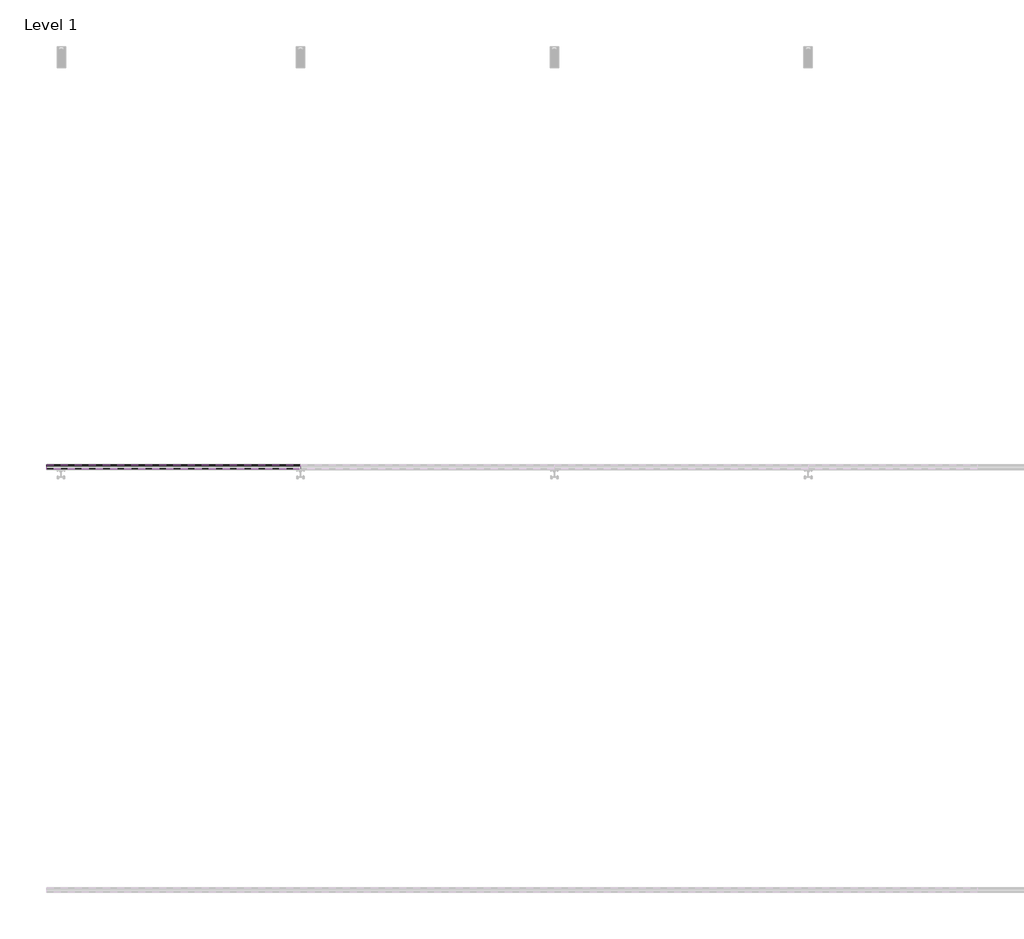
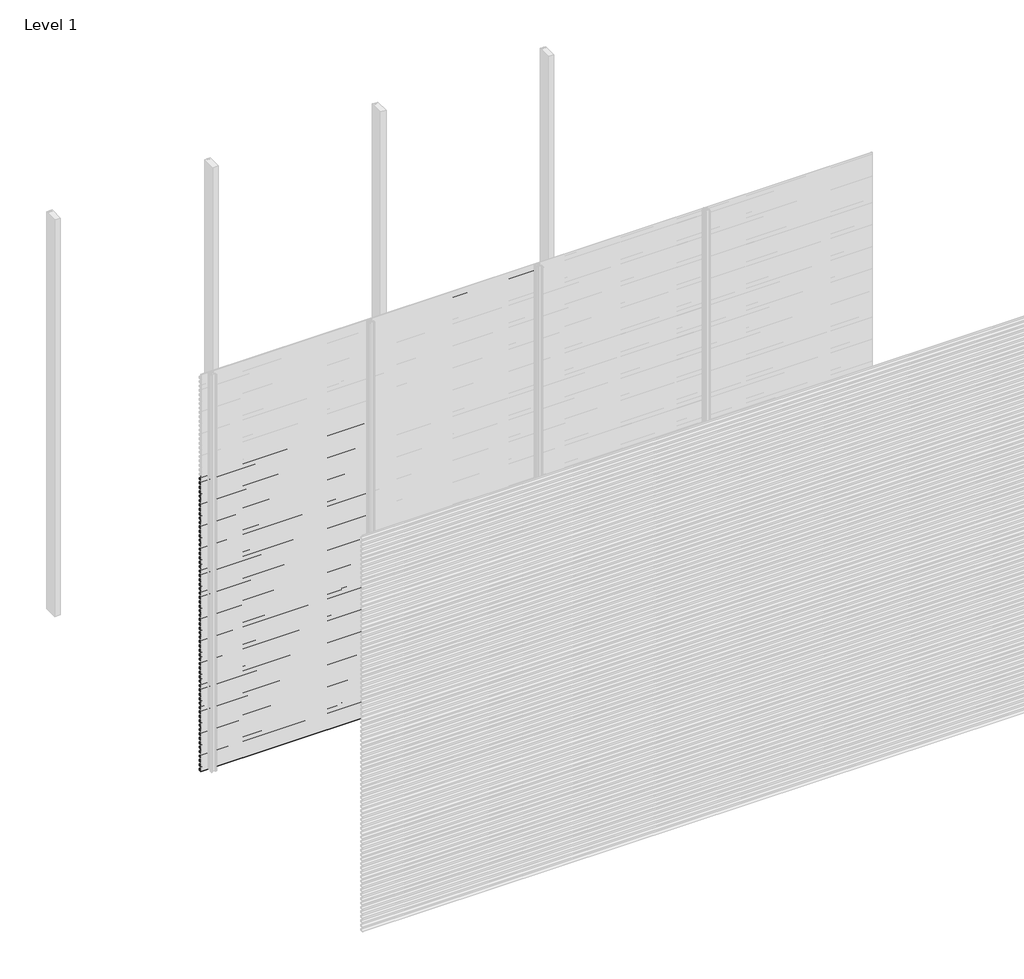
# One storey, part 20 of 77: 72 proxies.
"""IFC4 building model written with IfcOpenShell, lengths in millimetres."""

from ifc_helpers import new_model, si_unit, frame, origin, place, context, project, spatial, polyline, outline, extrude, element, save

model = new_model("IFC4")

# Units and contexts
model_context = context("Model", 3, world=origin())
ifc_project = project(units=[si_unit("LENGTHUNIT", "METRE", prefix="MILLI")], contexts=[model_context])

# Site, building, storey
site = spatial("IfcSite", under=ifc_project)
building = spatial("IfcBuilding", under=site)
storey = spatial("IfcBuildingStorey", under=building, Name="Level 1", Elevation=0.0)

# Proxies
placement = place(None, origin())
element("IfcBuildingElementProxy", 1, Name="Wall Sweeps", at=placement, inside=storey, context=model_context, shape_type="SweptSolid", body=[
    extrude(outline(polyline([(-41978.6, 2206.6359887), (-41998.0, 2217.8366691), (-41998.0, 2231.1), (-41997.0, 2231.1), (-41997.0, 2218.4191057), (-41977.6, 2207.2185105), (-41977.6, 2193.6185105), (-41978.6, 2195.1953129), (-41978.6, 2201.0032062), (-41995.9773817, 2192.9), (-41996.4, 2193.8063078), (-41978.6, 2202.1065841), (-41978.6, 2206.6359887)])), frame((0.0, 0.0, 0.0), z_axis=(1.0, 0.0, 0.0), x_axis=(0.0, 1.0, 0.0)), (0.0, 0.0, 1.0), 1200.0),
])
element("IfcBuildingElementProxy", 2, Name="Wall Sweeps", at=placement, inside=storey, context=model_context, shape_type="SweptSolid", body=[
    extrude(outline(polyline([(-41978.6, 2173.3359887), (-41998.0, 2184.5366691), (-41998.0, 2197.8), (-41997.0, 2197.8), (-41997.0, 2185.1191057), (-41977.6, 2173.9185105), (-41977.6, 2160.3185105), (-41978.6, 2161.8953129), (-41978.6, 2167.7032062), (-41995.9773817, 2159.6), (-41996.4, 2160.5063078), (-41978.6, 2168.8065841), (-41978.6, 2173.3359887)])), frame((0.0, 0.0, 0.0), z_axis=(1.0, 0.0, 0.0), x_axis=(0.0, 1.0, 0.0)), (0.0, 0.0, 1.0), 1200.0),
])
element("IfcBuildingElementProxy", 3, Name="Wall Sweeps", at=placement, inside=storey, context=model_context, shape_type="SweptSolid", body=[
    extrude(outline(polyline([(-41978.6, 2140.0359887), (-41998.0, 2151.2366691), (-41998.0, 2164.5), (-41997.0, 2164.5), (-41997.0, 2151.8191057), (-41977.6, 2140.6185105), (-41977.6, 2127.0185105), (-41978.6, 2128.5953129), (-41978.6, 2134.4032062), (-41995.9773817, 2126.3), (-41996.4, 2127.2063078), (-41978.6, 2135.5065841), (-41978.6, 2140.0359887)])), frame((0.0, 0.0, 0.0), z_axis=(1.0, 0.0, 0.0), x_axis=(0.0, 1.0, 0.0)), (0.0, 0.0, 1.0), 1200.0),
])
element("IfcBuildingElementProxy", 4, Name="Wall Sweeps", at=placement, inside=storey, context=model_context, shape_type="SweptSolid", body=[
    extrude(outline(polyline([(-41978.6, 2106.7359887), (-41998.0, 2117.9366691), (-41998.0, 2131.2), (-41997.0, 2131.2), (-41997.0, 2118.5191057), (-41977.6, 2107.3185105), (-41977.6, 2093.7185105), (-41978.6, 2095.2953129), (-41978.6, 2101.1032062), (-41995.9773817, 2093.0), (-41996.4, 2093.9063078), (-41978.6, 2102.2065841), (-41978.6, 2106.7359887)])), frame((0.0, 0.0, 0.0), z_axis=(1.0, 0.0, 0.0), x_axis=(0.0, 1.0, 0.0)), (0.0, 0.0, 1.0), 1200.0),
])
element("IfcBuildingElementProxy", 5, Name="Wall Sweeps", at=placement, inside=storey, context=model_context, shape_type="SweptSolid", body=[
    extrude(outline(polyline([(-41978.6, 2073.4359887), (-41998.0, 2084.6366691), (-41998.0, 2097.9), (-41997.0, 2097.9), (-41997.0, 2085.2191057), (-41977.6, 2074.0185105), (-41977.6, 2060.4185105), (-41978.6, 2061.9953129), (-41978.6, 2067.8032062), (-41995.9773817, 2059.7), (-41996.4, 2060.6063078), (-41978.6, 2068.9065841), (-41978.6, 2073.4359887)])), frame((0.0, 0.0, 0.0), z_axis=(1.0, 0.0, 0.0), x_axis=(0.0, 1.0, 0.0)), (0.0, 0.0, 1.0), 1200.0),
])
element("IfcBuildingElementProxy", 6, Name="Wall Sweeps", at=placement, inside=storey, context=model_context, shape_type="SweptSolid", body=[
    extrude(outline(polyline([(-41978.6, 2040.1359887), (-41998.0, 2051.3366691), (-41998.0, 2064.6), (-41997.0, 2064.6), (-41997.0, 2051.9191057), (-41977.6, 2040.7185105), (-41977.6, 2027.1185105), (-41978.6, 2028.6953129), (-41978.6, 2034.5032062), (-41995.9773817, 2026.4), (-41996.4, 2027.3063078), (-41978.6, 2035.6065841), (-41978.6, 2040.1359887)])), frame((0.0, 0.0, 0.0), z_axis=(1.0, 0.0, 0.0), x_axis=(0.0, 1.0, 0.0)), (0.0, 0.0, 1.0), 1200.0),
])
element("IfcBuildingElementProxy", 7, Name="Wall Sweeps", at=placement, inside=storey, context=model_context, shape_type="SweptSolid", body=[
    extrude(outline(polyline([(-41978.6, 2006.8359887), (-41998.0, 2018.0366691), (-41998.0, 2031.3), (-41997.0, 2031.3), (-41997.0, 2018.6191057), (-41977.6, 2007.4185105), (-41977.6, 1993.8185105), (-41978.6, 1995.3953129), (-41978.6, 2001.2032062), (-41995.9773817, 1993.1), (-41996.4, 1994.0063078), (-41978.6, 2002.3065841), (-41978.6, 2006.8359887)])), frame((0.0, 0.0, 0.0), z_axis=(1.0, 0.0, 0.0), x_axis=(0.0, 1.0, 0.0)), (0.0, 0.0, 1.0), 1200.0),
])
element("IfcBuildingElementProxy", 8, Name="Wall Sweeps", at=placement, inside=storey, context=model_context, shape_type="SweptSolid", body=[
    extrude(outline(polyline([(-41978.6, 1973.5359887), (-41998.0, 1984.7366691), (-41998.0, 1998.0), (-41997.0, 1998.0), (-41997.0, 1985.3191057), (-41977.6, 1974.1185105), (-41977.6, 1960.5185105), (-41978.6, 1962.0953129), (-41978.6, 1967.9032062), (-41995.9773817, 1959.8), (-41996.4, 1960.7063078), (-41978.6, 1969.0065841), (-41978.6, 1973.5359887)])), frame((0.0, 0.0, 0.0), z_axis=(1.0, 0.0, 0.0), x_axis=(0.0, 1.0, 0.0)), (0.0, 0.0, 1.0), 1200.0),
])
element("IfcBuildingElementProxy", 9, Name="Wall Sweeps", at=placement, inside=storey, context=model_context, shape_type="SweptSolid", body=[
    extrude(outline(polyline([(-41978.6, 1940.2359887), (-41998.0, 1951.4366691), (-41998.0, 1964.7), (-41997.0, 1964.7), (-41997.0, 1952.0191057), (-41977.6, 1940.8185105), (-41977.6, 1927.2185105), (-41978.6, 1928.7953129), (-41978.6, 1934.6032062), (-41995.9773817, 1926.5), (-41996.4, 1927.4063078), (-41978.6, 1935.7065841), (-41978.6, 1940.2359887)])), frame((0.0, 0.0, 0.0), z_axis=(1.0, 0.0, 0.0), x_axis=(0.0, 1.0, 0.0)), (0.0, 0.0, 1.0), 1200.0),
])
element("IfcBuildingElementProxy", 10, Name="Wall Sweeps", at=placement, inside=storey, context=model_context, shape_type="SweptSolid", body=[
    extrude(outline(polyline([(-41978.6, 1906.9359887), (-41998.0, 1918.1366691), (-41998.0, 1931.4), (-41997.0, 1931.4), (-41997.0, 1918.7191057), (-41977.6, 1907.5185105), (-41977.6, 1893.9185105), (-41978.6, 1895.4953129), (-41978.6, 1901.3032062), (-41995.9773817, 1893.2), (-41996.4, 1894.1063078), (-41978.6, 1902.4065841), (-41978.6, 1906.9359887)])), frame((0.0, 0.0, 0.0), z_axis=(1.0, 0.0, 0.0), x_axis=(0.0, 1.0, 0.0)), (0.0, 0.0, 1.0), 1200.0),
])
element("IfcBuildingElementProxy", 11, Name="Wall Sweeps", at=placement, inside=storey, context=model_context, shape_type="SweptSolid", body=[
    extrude(outline(polyline([(-41978.6, 1873.6359887), (-41998.0, 1884.8366691), (-41998.0, 1898.1), (-41997.0, 1898.1), (-41997.0, 1885.4191057), (-41977.6, 1874.2185105), (-41977.6, 1860.6185105), (-41978.6, 1862.1953129), (-41978.6, 1868.0032062), (-41995.9773817, 1859.9), (-41996.4, 1860.8063078), (-41978.6, 1869.1065841), (-41978.6, 1873.6359887)])), frame((0.0, 0.0, 0.0), z_axis=(1.0, 0.0, 0.0), x_axis=(0.0, 1.0, 0.0)), (0.0, 0.0, 1.0), 1200.0),
])
element("IfcBuildingElementProxy", 12, Name="Wall Sweeps", at=placement, inside=storey, context=model_context, shape_type="SweptSolid", body=[
    extrude(outline(polyline([(-41978.6, 1840.3359887), (-41998.0, 1851.5366691), (-41998.0, 1864.8), (-41997.0, 1864.8), (-41997.0, 1852.1191057), (-41977.6, 1840.9185105), (-41977.6, 1827.3185105), (-41978.6, 1828.8953129), (-41978.6, 1834.7032062), (-41995.9773817, 1826.6), (-41996.4, 1827.5063078), (-41978.6, 1835.8065841), (-41978.6, 1840.3359887)])), frame((0.0, 0.0, 0.0), z_axis=(1.0, 0.0, 0.0), x_axis=(0.0, 1.0, 0.0)), (0.0, 0.0, 1.0), 1200.0),
])
element("IfcBuildingElementProxy", 13, Name="Wall Sweeps", at=placement, inside=storey, context=model_context, shape_type="SweptSolid", body=[
    extrude(outline(polyline([(-41978.6, 1807.0359887), (-41998.0, 1818.2366691), (-41998.0, 1831.5), (-41997.0, 1831.5), (-41997.0, 1818.8191057), (-41977.6, 1807.6185105), (-41977.6, 1794.0185105), (-41978.6, 1795.5953129), (-41978.6, 1801.4032062), (-41995.9773817, 1793.3), (-41996.4, 1794.2063078), (-41978.6, 1802.5065841), (-41978.6, 1807.0359887)])), frame((0.0, 0.0, 0.0), z_axis=(1.0, 0.0, 0.0), x_axis=(0.0, 1.0, 0.0)), (0.0, 0.0, 1.0), 1200.0),
])
element("IfcBuildingElementProxy", 14, Name="Wall Sweeps", at=placement, inside=storey, context=model_context, shape_type="SweptSolid", body=[
    extrude(outline(polyline([(-41978.6, 1773.7359887), (-41998.0, 1784.9366691), (-41998.0, 1798.2), (-41997.0, 1798.2), (-41997.0, 1785.5191057), (-41977.6, 1774.3185105), (-41977.6, 1760.7185105), (-41978.6, 1762.2953129), (-41978.6, 1768.1032062), (-41995.9773817, 1760.0), (-41996.4, 1760.9063078), (-41978.6, 1769.2065841), (-41978.6, 1773.7359887)])), frame((0.0, 0.0, 0.0), z_axis=(1.0, 0.0, 0.0), x_axis=(0.0, 1.0, 0.0)), (0.0, 0.0, 1.0), 1200.0),
])
element("IfcBuildingElementProxy", 15, Name="Wall Sweeps", at=placement, inside=storey, context=model_context, shape_type="SweptSolid", body=[
    extrude(outline(polyline([(-41978.6, 1740.4359887), (-41998.0, 1751.6366691), (-41998.0, 1764.9), (-41997.0, 1764.9), (-41997.0, 1752.2191057), (-41977.6, 1741.0185105), (-41977.6, 1727.4185105), (-41978.6, 1728.9953129), (-41978.6, 1734.8032062), (-41995.9773817, 1726.7), (-41996.4, 1727.6063078), (-41978.6, 1735.9065841), (-41978.6, 1740.4359887)])), frame((0.0, 0.0, 0.0), z_axis=(1.0, 0.0, 0.0), x_axis=(0.0, 1.0, 0.0)), (0.0, 0.0, 1.0), 1200.0),
])
element("IfcBuildingElementProxy", 16, Name="Wall Sweeps", at=placement, inside=storey, context=model_context, shape_type="SweptSolid", body=[
    extrude(outline(polyline([(-41978.6, 1707.1359887), (-41998.0, 1718.3366691), (-41998.0, 1731.6), (-41997.0, 1731.6), (-41997.0, 1718.9191057), (-41977.6, 1707.7185105), (-41977.6, 1694.1185105), (-41978.6, 1695.6953129), (-41978.6, 1701.5032062), (-41995.9773817, 1693.4), (-41996.4, 1694.3063078), (-41978.6, 1702.6065841), (-41978.6, 1707.1359887)])), frame((0.0, 0.0, 0.0), z_axis=(1.0, 0.0, 0.0), x_axis=(0.0, 1.0, 0.0)), (0.0, 0.0, 1.0), 1200.0),
])
element("IfcBuildingElementProxy", 17, Name="Wall Sweeps", at=placement, inside=storey, context=model_context, shape_type="SweptSolid", body=[
    extrude(outline(polyline([(-41978.6, 1673.8359887), (-41998.0, 1685.0366691), (-41998.0, 1698.3), (-41997.0, 1698.3), (-41997.0, 1685.6191057), (-41977.6, 1674.4185105), (-41977.6, 1660.8185105), (-41978.6, 1662.3953129), (-41978.6, 1668.2032062), (-41995.9773817, 1660.1), (-41996.4, 1661.0063078), (-41978.6, 1669.3065841), (-41978.6, 1673.8359887)])), frame((0.0, 0.0, 0.0), z_axis=(1.0, 0.0, 0.0), x_axis=(0.0, 1.0, 0.0)), (0.0, 0.0, 1.0), 1200.0),
])
element("IfcBuildingElementProxy", 18, Name="Wall Sweeps", at=placement, inside=storey, context=model_context, shape_type="SweptSolid", body=[
    extrude(outline(polyline([(-41978.6, 1640.5359887), (-41998.0, 1651.7366691), (-41998.0, 1665.0), (-41997.0, 1665.0), (-41997.0, 1652.3191057), (-41977.6, 1641.1185105), (-41977.6, 1627.5185105), (-41978.6, 1629.0953129), (-41978.6, 1634.9032062), (-41995.9773817, 1626.8), (-41996.4, 1627.7063078), (-41978.6, 1636.0065841), (-41978.6, 1640.5359887)])), frame((0.0, 0.0, 0.0), z_axis=(1.0, 0.0, 0.0), x_axis=(0.0, 1.0, 0.0)), (0.0, 0.0, 1.0), 1200.0),
])
element("IfcBuildingElementProxy", 19, Name="Wall Sweeps", at=placement, inside=storey, context=model_context, shape_type="SweptSolid", body=[
    extrude(outline(polyline([(-41978.6, 1607.2359887), (-41998.0, 1618.4366691), (-41998.0, 1631.7), (-41997.0, 1631.7), (-41997.0, 1619.0191057), (-41977.6, 1607.8185105), (-41977.6, 1594.2185105), (-41978.6, 1595.7953129), (-41978.6, 1601.6032062), (-41995.9773817, 1593.5), (-41996.4, 1594.4063078), (-41978.6, 1602.7065841), (-41978.6, 1607.2359887)])), frame((0.0, 0.0, 0.0), z_axis=(1.0, 0.0, 0.0), x_axis=(0.0, 1.0, 0.0)), (0.0, 0.0, 1.0), 1200.0),
])
element("IfcBuildingElementProxy", 20, Name="Wall Sweeps", at=placement, inside=storey, context=model_context, shape_type="SweptSolid", body=[
    extrude(outline(polyline([(-41978.6, 1573.9359887), (-41998.0, 1585.1366691), (-41998.0, 1598.4), (-41997.0, 1598.4), (-41997.0, 1585.7191057), (-41977.6, 1574.5185105), (-41977.6, 1560.9185105), (-41978.6, 1562.4953129), (-41978.6, 1568.3032062), (-41995.9773817, 1560.2), (-41996.4, 1561.1063078), (-41978.6, 1569.4065841), (-41978.6, 1573.9359887)])), frame((0.0, 0.0, 0.0), z_axis=(1.0, 0.0, 0.0), x_axis=(0.0, 1.0, 0.0)), (0.0, 0.0, 1.0), 1200.0),
])
element("IfcBuildingElementProxy", 21, Name="Wall Sweeps", at=placement, inside=storey, context=model_context, shape_type="SweptSolid", body=[
    extrude(outline(polyline([(-41978.6, 1540.6359887), (-41998.0, 1551.8366691), (-41998.0, 1565.1), (-41997.0, 1565.1), (-41997.0, 1552.4191057), (-41977.6, 1541.2185105), (-41977.6, 1527.6185105), (-41978.6, 1529.1953129), (-41978.6, 1535.0032062), (-41995.9773817, 1526.9), (-41996.4, 1527.8063078), (-41978.6, 1536.1065841), (-41978.6, 1540.6359887)])), frame((0.0, 0.0, 0.0), z_axis=(1.0, 0.0, 0.0), x_axis=(0.0, 1.0, 0.0)), (0.0, 0.0, 1.0), 1200.0),
])
element("IfcBuildingElementProxy", 22, Name="Wall Sweeps", at=placement, inside=storey, context=model_context, shape_type="SweptSolid", body=[
    extrude(outline(polyline([(-41978.6, 1507.3359887), (-41998.0, 1518.5366691), (-41998.0, 1531.8), (-41997.0, 1531.8), (-41997.0, 1519.1191057), (-41977.6, 1507.9185105), (-41977.6, 1494.3185105), (-41978.6, 1495.8953129), (-41978.6, 1501.7032062), (-41995.9773817, 1493.6), (-41996.4, 1494.5063078), (-41978.6, 1502.8065841), (-41978.6, 1507.3359887)])), frame((0.0, 0.0, 0.0), z_axis=(1.0, 0.0, 0.0), x_axis=(0.0, 1.0, 0.0)), (0.0, 0.0, 1.0), 1200.0),
])
element("IfcBuildingElementProxy", 23, Name="Wall Sweeps", at=placement, inside=storey, context=model_context, shape_type="SweptSolid", body=[
    extrude(outline(polyline([(-41978.6, 1474.0359887), (-41998.0, 1485.2366691), (-41998.0, 1498.5), (-41997.0, 1498.5), (-41997.0, 1485.8191057), (-41977.6, 1474.6185105), (-41977.6, 1461.0185105), (-41978.6, 1462.5953129), (-41978.6, 1468.4032062), (-41995.9773817, 1460.3), (-41996.4, 1461.2063078), (-41978.6, 1469.5065841), (-41978.6, 1474.0359887)])), frame((0.0, 0.0, 0.0), z_axis=(1.0, 0.0, 0.0), x_axis=(0.0, 1.0, 0.0)), (0.0, 0.0, 1.0), 1200.0),
])
element("IfcBuildingElementProxy", 24, Name="Wall Sweeps", at=placement, inside=storey, context=model_context, shape_type="SweptSolid", body=[
    extrude(outline(polyline([(-41978.6, 1440.7359887), (-41998.0, 1451.9366691), (-41998.0, 1465.2), (-41997.0, 1465.2), (-41997.0, 1452.5191057), (-41977.6, 1441.3185105), (-41977.6, 1427.7185105), (-41978.6, 1429.2953129), (-41978.6, 1435.1032062), (-41995.9773817, 1427.0), (-41996.4, 1427.9063078), (-41978.6, 1436.2065841), (-41978.6, 1440.7359887)])), frame((0.0, 0.0, 0.0), z_axis=(1.0, 0.0, 0.0), x_axis=(0.0, 1.0, 0.0)), (0.0, 0.0, 1.0), 1200.0),
])
element("IfcBuildingElementProxy", 25, Name="Wall Sweeps", at=placement, inside=storey, context=model_context, shape_type="SweptSolid", body=[
    extrude(outline(polyline([(-41978.6, 1407.4359887), (-41998.0, 1418.6366691), (-41998.0, 1431.9), (-41997.0, 1431.9), (-41997.0, 1419.2191057), (-41977.6, 1408.0185105), (-41977.6, 1394.4185105), (-41978.6, 1395.9953129), (-41978.6, 1401.8032062), (-41995.9773817, 1393.7), (-41996.4, 1394.6063078), (-41978.6, 1402.9065841), (-41978.6, 1407.4359887)])), frame((0.0, 0.0, 0.0), z_axis=(1.0, 0.0, 0.0), x_axis=(0.0, 1.0, 0.0)), (0.0, 0.0, 1.0), 1200.0),
])
element("IfcBuildingElementProxy", 26, Name="Wall Sweeps", at=placement, inside=storey, context=model_context, shape_type="SweptSolid", body=[
    extrude(outline(polyline([(-41978.6, 1374.1359887), (-41998.0, 1385.3366691), (-41998.0, 1398.6), (-41997.0, 1398.6), (-41997.0, 1385.9191057), (-41977.6, 1374.7185105), (-41977.6, 1361.1185105), (-41978.6, 1362.6953129), (-41978.6, 1368.5032062), (-41995.9773817, 1360.4), (-41996.4, 1361.3063078), (-41978.6, 1369.6065841), (-41978.6, 1374.1359887)])), frame((0.0, 0.0, 0.0), z_axis=(1.0, 0.0, 0.0), x_axis=(0.0, 1.0, 0.0)), (0.0, 0.0, 1.0), 1200.0),
])
element("IfcBuildingElementProxy", 27, Name="Wall Sweeps", at=placement, inside=storey, context=model_context, shape_type="SweptSolid", body=[
    extrude(outline(polyline([(-41978.6, 1340.8359887), (-41998.0, 1352.0366691), (-41998.0, 1365.3), (-41997.0, 1365.3), (-41997.0, 1352.6191057), (-41977.6, 1341.4185105), (-41977.6, 1327.8185105), (-41978.6, 1329.3953129), (-41978.6, 1335.2032062), (-41995.9773817, 1327.1), (-41996.4, 1328.0063078), (-41978.6, 1336.3065841), (-41978.6, 1340.8359887)])), frame((0.0, 0.0, 0.0), z_axis=(1.0, 0.0, 0.0), x_axis=(0.0, 1.0, 0.0)), (0.0, 0.0, 1.0), 1200.0),
])
element("IfcBuildingElementProxy", 28, Name="Wall Sweeps", at=placement, inside=storey, context=model_context, shape_type="SweptSolid", body=[
    extrude(outline(polyline([(-41978.6, 1307.5359887), (-41998.0, 1318.7366691), (-41998.0, 1332.0), (-41997.0, 1332.0), (-41997.0, 1319.3191057), (-41977.6, 1308.1185105), (-41977.6, 1294.5185105), (-41978.6, 1296.0953129), (-41978.6, 1301.9032062), (-41995.9773817, 1293.8), (-41996.4, 1294.7063078), (-41978.6, 1303.0065841), (-41978.6, 1307.5359887)])), frame((0.0, 0.0, 0.0), z_axis=(1.0, 0.0, 0.0), x_axis=(0.0, 1.0, 0.0)), (0.0, 0.0, 1.0), 1200.0),
])
element("IfcBuildingElementProxy", 29, Name="Wall Sweeps", at=placement, inside=storey, context=model_context, shape_type="SweptSolid", body=[
    extrude(outline(polyline([(-41978.6, 1274.2359887), (-41998.0, 1285.4366691), (-41998.0, 1298.7), (-41997.0, 1298.7), (-41997.0, 1286.0191057), (-41977.6, 1274.8185105), (-41977.6, 1261.2185105), (-41978.6, 1262.7953129), (-41978.6, 1268.6032062), (-41995.9773817, 1260.5), (-41996.4, 1261.4063078), (-41978.6, 1269.7065841), (-41978.6, 1274.2359887)])), frame((0.0, 0.0, 0.0), z_axis=(1.0, 0.0, 0.0), x_axis=(0.0, 1.0, 0.0)), (0.0, 0.0, 1.0), 1200.0),
])
element("IfcBuildingElementProxy", 30, Name="Wall Sweeps", at=placement, inside=storey, context=model_context, shape_type="SweptSolid", body=[
    extrude(outline(polyline([(-41978.6, 1240.9359887), (-41998.0, 1252.1366691), (-41998.0, 1265.4), (-41997.0, 1265.4), (-41997.0, 1252.7191057), (-41977.6, 1241.5185105), (-41977.6, 1227.9185105), (-41978.6, 1229.4953129), (-41978.6, 1235.3032062), (-41995.9773817, 1227.2), (-41996.4, 1228.1063078), (-41978.6, 1236.4065841), (-41978.6, 1240.9359887)])), frame((0.0, 0.0, 0.0), z_axis=(1.0, 0.0, 0.0), x_axis=(0.0, 1.0, 0.0)), (0.0, 0.0, 1.0), 1200.0),
])
element("IfcBuildingElementProxy", 31, Name="Wall Sweeps", at=placement, inside=storey, context=model_context, shape_type="SweptSolid", body=[
    extrude(outline(polyline([(-41978.6, 1207.6359887), (-41998.0, 1218.8366691), (-41998.0, 1232.1), (-41997.0, 1232.1), (-41997.0, 1219.4191057), (-41977.6, 1208.2185105), (-41977.6, 1194.6185105), (-41978.6, 1196.1953129), (-41978.6, 1202.0032062), (-41995.9773817, 1193.9), (-41996.4, 1194.8063078), (-41978.6, 1203.1065841), (-41978.6, 1207.6359887)])), frame((0.0, 0.0, 0.0), z_axis=(1.0, 0.0, 0.0), x_axis=(0.0, 1.0, 0.0)), (0.0, 0.0, 1.0), 1200.0),
])
element("IfcBuildingElementProxy", 32, Name="Wall Sweeps", at=placement, inside=storey, context=model_context, shape_type="SweptSolid", body=[
    extrude(outline(polyline([(-41978.6, 1174.3359887), (-41998.0, 1185.5366691), (-41998.0, 1198.8), (-41997.0, 1198.8), (-41997.0, 1186.1191057), (-41977.6, 1174.9185105), (-41977.6, 1161.3185105), (-41978.6, 1162.8953129), (-41978.6, 1168.7032062), (-41995.9773817, 1160.6), (-41996.4, 1161.5063078), (-41978.6, 1169.8065841), (-41978.6, 1174.3359887)])), frame((0.0, 0.0, 0.0), z_axis=(1.0, 0.0, 0.0), x_axis=(0.0, 1.0, 0.0)), (0.0, 0.0, 1.0), 1200.0),
])
element("IfcBuildingElementProxy", 33, Name="Wall Sweeps", at=placement, inside=storey, context=model_context, shape_type="SweptSolid", body=[
    extrude(outline(polyline([(-41978.6, 1141.0359887), (-41998.0, 1152.2366691), (-41998.0, 1165.5), (-41997.0, 1165.5), (-41997.0, 1152.8191057), (-41977.6, 1141.6185105), (-41977.6, 1128.0185105), (-41978.6, 1129.5953129), (-41978.6, 1135.4032062), (-41995.9773817, 1127.3), (-41996.4, 1128.2063078), (-41978.6, 1136.5065841), (-41978.6, 1141.0359887)])), frame((0.0, 0.0, 0.0), z_axis=(1.0, 0.0, 0.0), x_axis=(0.0, 1.0, 0.0)), (0.0, 0.0, 1.0), 1200.0),
])
element("IfcBuildingElementProxy", 34, Name="Wall Sweeps", at=placement, inside=storey, context=model_context, shape_type="SweptSolid", body=[
    extrude(outline(polyline([(-41978.6, 1107.7359887), (-41998.0, 1118.9366691), (-41998.0, 1132.2), (-41997.0, 1132.2), (-41997.0, 1119.5191057), (-41977.6, 1108.3185105), (-41977.6, 1094.7185105), (-41978.6, 1096.2953129), (-41978.6, 1102.1032062), (-41995.9773817, 1094.0), (-41996.4, 1094.9063078), (-41978.6, 1103.2065841), (-41978.6, 1107.7359887)])), frame((0.0, 0.0, 0.0), z_axis=(1.0, 0.0, 0.0), x_axis=(0.0, 1.0, 0.0)), (0.0, 0.0, 1.0), 1200.0),
])
element("IfcBuildingElementProxy", 35, Name="Wall Sweeps", at=placement, inside=storey, context=model_context, shape_type="SweptSolid", body=[
    extrude(outline(polyline([(-41978.6, 1074.4359887), (-41998.0, 1085.6366691), (-41998.0, 1098.9), (-41997.0, 1098.9), (-41997.0, 1086.2191057), (-41977.6, 1075.0185105), (-41977.6, 1061.4185105), (-41978.6, 1062.9953129), (-41978.6, 1068.8032062), (-41995.9773817, 1060.7), (-41996.4, 1061.6063078), (-41978.6, 1069.9065841), (-41978.6, 1074.4359887)])), frame((0.0, 0.0, 0.0), z_axis=(1.0, 0.0, 0.0), x_axis=(0.0, 1.0, 0.0)), (0.0, 0.0, 1.0), 1200.0),
])
element("IfcBuildingElementProxy", 36, Name="Wall Sweeps", at=placement, inside=storey, context=model_context, shape_type="SweptSolid", body=[
    extrude(outline(polyline([(-41978.6, 1041.1359887), (-41998.0, 1052.3366691), (-41998.0, 1065.6), (-41997.0, 1065.6), (-41997.0, 1052.9191057), (-41977.6, 1041.7185105), (-41977.6, 1028.1185105), (-41978.6, 1029.6953129), (-41978.6, 1035.5032062), (-41995.9773817, 1027.4), (-41996.4, 1028.3063078), (-41978.6, 1036.6065841), (-41978.6, 1041.1359887)])), frame((0.0, 0.0, 0.0), z_axis=(1.0, 0.0, 0.0), x_axis=(0.0, 1.0, 0.0)), (0.0, 0.0, 1.0), 1200.0),
])
element("IfcBuildingElementProxy", 37, Name="Wall Sweeps", at=placement, inside=storey, context=model_context, shape_type="SweptSolid", body=[
    extrude(outline(polyline([(-41978.6, 1007.8359887), (-41998.0, 1019.0366691), (-41998.0, 1032.3), (-41997.0, 1032.3), (-41997.0, 1019.6191057), (-41977.6, 1008.4185105), (-41977.6, 994.8185105), (-41978.6, 996.3953129), (-41978.6, 1002.2032062), (-41995.9773817, 994.1), (-41996.4, 995.0063078), (-41978.6, 1003.3065841), (-41978.6, 1007.8359887)])), frame((0.0, 0.0, 0.0), z_axis=(1.0, 0.0, 0.0), x_axis=(0.0, 1.0, 0.0)), (0.0, 0.0, 1.0), 1200.0),
])
element("IfcBuildingElementProxy", 38, Name="Wall Sweeps", at=placement, inside=storey, context=model_context, shape_type="SweptSolid", body=[
    extrude(outline(polyline([(-41978.6, 974.5359887), (-41998.0, 985.7366691), (-41998.0, 999.0), (-41997.0, 999.0), (-41997.0, 986.3191057), (-41977.6, 975.1185105), (-41977.6, 961.5185105), (-41978.6, 963.0953129), (-41978.6, 968.9032062), (-41995.9773817, 960.8), (-41996.4, 961.7063078), (-41978.6, 970.0065841), (-41978.6, 974.5359887)])), frame((0.0, 0.0, 0.0), z_axis=(1.0, 0.0, 0.0), x_axis=(0.0, 1.0, 0.0)), (0.0, 0.0, 1.0), 1200.0),
])
element("IfcBuildingElementProxy", 39, Name="Wall Sweeps", at=placement, inside=storey, context=model_context, shape_type="SweptSolid", body=[
    extrude(outline(polyline([(-41978.6, 941.2359887), (-41998.0, 952.4366691), (-41998.0, 965.7), (-41997.0, 965.7), (-41997.0, 953.0191057), (-41977.6, 941.8185105), (-41977.6, 928.2185105), (-41978.6, 929.7953129), (-41978.6, 935.6032062), (-41995.9773817, 927.5), (-41996.4, 928.4063078), (-41978.6, 936.7065841), (-41978.6, 941.2359887)])), frame((0.0, 0.0, 0.0), z_axis=(1.0, 0.0, 0.0), x_axis=(0.0, 1.0, 0.0)), (0.0, 0.0, 1.0), 1200.0),
])
element("IfcBuildingElementProxy", 40, Name="Wall Sweeps", at=placement, inside=storey, context=model_context, shape_type="SweptSolid", body=[
    extrude(outline(polyline([(-41978.6, 907.9359887), (-41998.0, 919.1366691), (-41998.0, 932.4), (-41997.0, 932.4), (-41997.0, 919.7191057), (-41977.6, 908.5185105), (-41977.6, 894.9185105), (-41978.6, 896.4953129), (-41978.6, 902.3032062), (-41995.9773817, 894.2), (-41996.4, 895.1063078), (-41978.6, 903.4065841), (-41978.6, 907.9359887)])), frame((0.0, 0.0, 0.0), z_axis=(1.0, 0.0, 0.0), x_axis=(0.0, 1.0, 0.0)), (0.0, 0.0, 1.0), 1200.0),
])
element("IfcBuildingElementProxy", 41, Name="Wall Sweeps", at=placement, inside=storey, context=model_context, shape_type="SweptSolid", body=[
    extrude(outline(polyline([(-41978.6, 874.6359887), (-41998.0, 885.8366691), (-41998.0, 899.1), (-41997.0, 899.1), (-41997.0, 886.4191057), (-41977.6, 875.2185105), (-41977.6, 861.6185105), (-41978.6, 863.1953129), (-41978.6, 869.0032062), (-41995.9773817, 860.9), (-41996.4, 861.8063078), (-41978.6, 870.1065841), (-41978.6, 874.6359887)])), frame((0.0, 0.0, 0.0), z_axis=(1.0, 0.0, 0.0), x_axis=(0.0, 1.0, 0.0)), (0.0, 0.0, 1.0), 1200.0),
])
element("IfcBuildingElementProxy", 42, Name="Wall Sweeps", at=placement, inside=storey, context=model_context, shape_type="SweptSolid", body=[
    extrude(outline(polyline([(-41978.6, 841.3359887), (-41998.0, 852.5366691), (-41998.0, 865.8), (-41997.0, 865.8), (-41997.0, 853.1191057), (-41977.6, 841.9185105), (-41977.6, 828.3185105), (-41978.6, 829.8953129), (-41978.6, 835.7032062), (-41995.9773817, 827.6), (-41996.4, 828.5063078), (-41978.6, 836.8065841), (-41978.6, 841.3359887)])), frame((0.0, 0.0, 0.0), z_axis=(1.0, 0.0, 0.0), x_axis=(0.0, 1.0, 0.0)), (0.0, 0.0, 1.0), 1200.0),
])
element("IfcBuildingElementProxy", 43, Name="Wall Sweeps", at=placement, inside=storey, context=model_context, shape_type="SweptSolid", body=[
    extrude(outline(polyline([(-41978.6, 808.0359887), (-41998.0, 819.2366691), (-41998.0, 832.5), (-41997.0, 832.5), (-41997.0, 819.8191057), (-41977.6, 808.6185105), (-41977.6, 795.0185105), (-41978.6, 796.5953129), (-41978.6, 802.4032062), (-41995.9773817, 794.3), (-41996.4, 795.2063078), (-41978.6, 803.5065841), (-41978.6, 808.0359887)])), frame((0.0, 0.0, 0.0), z_axis=(1.0, 0.0, 0.0), x_axis=(0.0, 1.0, 0.0)), (0.0, 0.0, 1.0), 1200.0),
])
element("IfcBuildingElementProxy", 44, Name="Wall Sweeps", at=placement, inside=storey, context=model_context, shape_type="SweptSolid", body=[
    extrude(outline(polyline([(-41978.6, 774.7359887), (-41998.0, 785.9366691), (-41998.0, 799.2), (-41997.0, 799.2), (-41997.0, 786.5191057), (-41977.6, 775.3185105), (-41977.6, 761.7185105), (-41978.6, 763.2953129), (-41978.6, 769.1032062), (-41995.9773817, 761.0), (-41996.4, 761.9063078), (-41978.6, 770.2065841), (-41978.6, 774.7359887)])), frame((0.0, 0.0, 0.0), z_axis=(1.0, 0.0, 0.0), x_axis=(0.0, 1.0, 0.0)), (0.0, 0.0, 1.0), 1200.0),
])
element("IfcBuildingElementProxy", 45, Name="Wall Sweeps", at=placement, inside=storey, context=model_context, shape_type="SweptSolid", body=[
    extrude(outline(polyline([(-41978.6, 741.4359887), (-41998.0, 752.6366691), (-41998.0, 765.9), (-41997.0, 765.9), (-41997.0, 753.2191057), (-41977.6, 742.0185105), (-41977.6, 728.4185105), (-41978.6, 729.9953129), (-41978.6, 735.8032062), (-41995.9773817, 727.7), (-41996.4, 728.6063078), (-41978.6, 736.9065841), (-41978.6, 741.4359887)])), frame((0.0, 0.0, 0.0), z_axis=(1.0, 0.0, 0.0), x_axis=(0.0, 1.0, 0.0)), (0.0, 0.0, 1.0), 1200.0),
])
element("IfcBuildingElementProxy", 46, Name="Wall Sweeps", at=placement, inside=storey, context=model_context, shape_type="SweptSolid", body=[
    extrude(outline(polyline([(-41978.6, 708.1359887), (-41998.0, 719.3366691), (-41998.0, 732.6), (-41997.0, 732.6), (-41997.0, 719.9191057), (-41977.6, 708.7185105), (-41977.6, 695.1185105), (-41978.6, 696.6953129), (-41978.6, 702.5032062), (-41995.9773817, 694.4), (-41996.4, 695.3063078), (-41978.6, 703.6065841), (-41978.6, 708.1359887)])), frame((0.0, 0.0, 0.0), z_axis=(1.0, 0.0, 0.0), x_axis=(0.0, 1.0, 0.0)), (0.0, 0.0, 1.0), 1200.0),
])
element("IfcBuildingElementProxy", 47, Name="Wall Sweeps", at=placement, inside=storey, context=model_context, shape_type="SweptSolid", body=[
    extrude(outline(polyline([(-41978.6, 674.8359887), (-41998.0, 686.0366691), (-41998.0, 699.3), (-41997.0, 699.3), (-41997.0, 686.6191057), (-41977.6, 675.4185105), (-41977.6, 661.8185105), (-41978.6, 663.3953129), (-41978.6, 669.2032062), (-41995.9773817, 661.1), (-41996.4, 662.0063078), (-41978.6, 670.3065841), (-41978.6, 674.8359887)])), frame((0.0, 0.0, 0.0), z_axis=(1.0, 0.0, 0.0), x_axis=(0.0, 1.0, 0.0)), (0.0, 0.0, 1.0), 1200.0),
])
element("IfcBuildingElementProxy", 48, Name="Wall Sweeps", at=placement, inside=storey, context=model_context, shape_type="SweptSolid", body=[
    extrude(outline(polyline([(-41978.6, 641.5359887), (-41998.0, 652.7366691), (-41998.0, 666.0), (-41997.0, 666.0), (-41997.0, 653.3191057), (-41977.6, 642.1185105), (-41977.6, 628.5185105), (-41978.6, 630.0953129), (-41978.6, 635.9032062), (-41995.9773817, 627.8), (-41996.4, 628.7063078), (-41978.6, 637.0065841), (-41978.6, 641.5359887)])), frame((0.0, 0.0, 0.0), z_axis=(1.0, 0.0, 0.0), x_axis=(0.0, 1.0, 0.0)), (0.0, 0.0, 1.0), 1200.0),
])
element("IfcBuildingElementProxy", 49, Name="Wall Sweeps", at=placement, inside=storey, context=model_context, shape_type="SweptSolid", body=[
    extrude(outline(polyline([(-41978.6, 608.2359887), (-41998.0, 619.4366691), (-41998.0, 632.7), (-41997.0, 632.7), (-41997.0, 620.0191057), (-41977.6, 608.8185105), (-41977.6, 595.2185105), (-41978.6, 596.7953129), (-41978.6, 602.6032062), (-41995.9773817, 594.5), (-41996.4, 595.4063078), (-41978.6, 603.7065841), (-41978.6, 608.2359887)])), frame((0.0, 0.0, 0.0), z_axis=(1.0, 0.0, 0.0), x_axis=(0.0, 1.0, 0.0)), (0.0, 0.0, 1.0), 1200.0),
])
element("IfcBuildingElementProxy", 50, Name="Wall Sweeps", at=placement, inside=storey, context=model_context, shape_type="SweptSolid", body=[
    extrude(outline(polyline([(-41978.6, 574.9359887), (-41998.0, 586.1366691), (-41998.0, 599.4), (-41997.0, 599.4), (-41997.0, 586.7191057), (-41977.6, 575.5185105), (-41977.6, 561.9185105), (-41978.6, 563.4953129), (-41978.6, 569.3032062), (-41995.9773817, 561.2), (-41996.4, 562.1063078), (-41978.6, 570.4065841), (-41978.6, 574.9359887)])), frame((0.0, 0.0, 0.0), z_axis=(1.0, 0.0, 0.0), x_axis=(0.0, 1.0, 0.0)), (0.0, 0.0, 1.0), 1200.0),
])
element("IfcBuildingElementProxy", 51, Name="Wall Sweeps", at=placement, inside=storey, context=model_context, shape_type="SweptSolid", body=[
    extrude(outline(polyline([(-41978.6, 541.6359887), (-41998.0, 552.8366691), (-41998.0, 566.1), (-41997.0, 566.1), (-41997.0, 553.4191057), (-41977.6, 542.2185105), (-41977.6, 528.6185105), (-41978.6, 530.1953129), (-41978.6, 536.0032062), (-41995.9773817, 527.9), (-41996.4, 528.8063078), (-41978.6, 537.1065841), (-41978.6, 541.6359887)])), frame((0.0, 0.0, 0.0), z_axis=(1.0, 0.0, 0.0), x_axis=(0.0, 1.0, 0.0)), (0.0, 0.0, 1.0), 1200.0),
])
element("IfcBuildingElementProxy", 52, Name="Wall Sweeps", at=placement, inside=storey, context=model_context, shape_type="SweptSolid", body=[
    extrude(outline(polyline([(-41978.6, 508.3359887), (-41998.0, 519.5366691), (-41998.0, 532.8), (-41997.0, 532.8), (-41997.0, 520.1191057), (-41977.6, 508.9185105), (-41977.6, 495.3185105), (-41978.6, 496.8953129), (-41978.6, 502.7032062), (-41995.9773817, 494.6), (-41996.4, 495.5063078), (-41978.6, 503.8065841), (-41978.6, 508.3359887)])), frame((0.0, 0.0, 0.0), z_axis=(1.0, 0.0, 0.0), x_axis=(0.0, 1.0, 0.0)), (0.0, 0.0, 1.0), 1200.0),
])
element("IfcBuildingElementProxy", 53, Name="Wall Sweeps", at=placement, inside=storey, context=model_context, shape_type="SweptSolid", body=[
    extrude(outline(polyline([(-41978.6, 475.0359887), (-41998.0, 486.2366691), (-41998.0, 499.5), (-41997.0, 499.5), (-41997.0, 486.8191057), (-41977.6, 475.6185105), (-41977.6, 462.0185105), (-41978.6, 463.5953129), (-41978.6, 469.4032062), (-41995.9773817, 461.3), (-41996.4, 462.2063078), (-41978.6, 470.5065841), (-41978.6, 475.0359887)])), frame((0.0, 0.0, 0.0), z_axis=(1.0, 0.0, 0.0), x_axis=(0.0, 1.0, 0.0)), (0.0, 0.0, 1.0), 1200.0),
])
element("IfcBuildingElementProxy", 54, Name="Wall Sweeps", at=placement, inside=storey, context=model_context, shape_type="SweptSolid", body=[
    extrude(outline(polyline([(-41978.6, 441.7359887), (-41998.0, 452.9366691), (-41998.0, 466.2), (-41997.0, 466.2), (-41997.0, 453.5191057), (-41977.6, 442.3185105), (-41977.6, 428.7185105), (-41978.6, 430.2953129), (-41978.6, 436.1032062), (-41995.9773817, 428.0), (-41996.4, 428.9063078), (-41978.6, 437.2065841), (-41978.6, 441.7359887)])), frame((0.0, 0.0, 0.0), z_axis=(1.0, 0.0, 0.0), x_axis=(0.0, 1.0, 0.0)), (0.0, 0.0, 1.0), 1200.0),
])
element("IfcBuildingElementProxy", 55, Name="Wall Sweeps", at=placement, inside=storey, context=model_context, shape_type="SweptSolid", body=[
    extrude(outline(polyline([(-41978.6, 408.4359887), (-41998.0, 419.6366691), (-41998.0, 432.9), (-41997.0, 432.9), (-41997.0, 420.2191057), (-41977.6, 409.0185105), (-41977.6, 395.4185105), (-41978.6, 396.9953129), (-41978.6, 402.8032062), (-41995.9773817, 394.7), (-41996.4, 395.6063078), (-41978.6, 403.9065841), (-41978.6, 408.4359887)])), frame((0.0, 0.0, 0.0), z_axis=(1.0, 0.0, 0.0), x_axis=(0.0, 1.0, 0.0)), (0.0, 0.0, 1.0), 1200.0),
])
element("IfcBuildingElementProxy", 56, Name="Wall Sweeps", at=placement, inside=storey, context=model_context, shape_type="SweptSolid", body=[
    extrude(outline(polyline([(-41978.6, 375.1359887), (-41998.0, 386.3366691), (-41998.0, 399.6), (-41997.0, 399.6), (-41997.0, 386.9191057), (-41977.6, 375.7185105), (-41977.6, 362.1185105), (-41978.6, 363.6953129), (-41978.6, 369.5032062), (-41995.9773817, 361.4), (-41996.4, 362.3063078), (-41978.6, 370.6065841), (-41978.6, 375.1359887)])), frame((0.0, 0.0, 0.0), z_axis=(1.0, 0.0, 0.0), x_axis=(0.0, 1.0, 0.0)), (0.0, 0.0, 1.0), 1200.0),
])
element("IfcBuildingElementProxy", 57, Name="Wall Sweeps", at=placement, inside=storey, context=model_context, shape_type="SweptSolid", body=[
    extrude(outline(polyline([(-41978.6, 341.8359887), (-41998.0, 353.0366691), (-41998.0, 366.3), (-41997.0, 366.3), (-41997.0, 353.6191057), (-41977.6, 342.4185105), (-41977.6, 328.8185105), (-41978.6, 330.3953129), (-41978.6, 336.2032062), (-41995.9773817, 328.1), (-41996.4, 329.0063078), (-41978.6, 337.3065841), (-41978.6, 341.8359887)])), frame((0.0, 0.0, 0.0), z_axis=(1.0, 0.0, 0.0), x_axis=(0.0, 1.0, 0.0)), (0.0, 0.0, 1.0), 1200.0),
])
element("IfcBuildingElementProxy", 58, Name="Wall Sweeps", at=placement, inside=storey, context=model_context, shape_type="SweptSolid", body=[
    extrude(outline(polyline([(-41978.6, 308.5359887), (-41998.0, 319.7366691), (-41998.0, 333.0), (-41997.0, 333.0), (-41997.0, 320.3191057), (-41977.6, 309.1185105), (-41977.6, 295.5185105), (-41978.6, 297.0953129), (-41978.6, 302.9032062), (-41995.9773817, 294.8), (-41996.4, 295.7063078), (-41978.6, 304.0065841), (-41978.6, 308.5359887)])), frame((0.0, 0.0, 0.0), z_axis=(1.0, 0.0, 0.0), x_axis=(0.0, 1.0, 0.0)), (0.0, 0.0, 1.0), 1200.0),
])
element("IfcBuildingElementProxy", 59, Name="Wall Sweeps", at=placement, inside=storey, context=model_context, shape_type="SweptSolid", body=[
    extrude(outline(polyline([(-41978.6, 275.2359887), (-41998.0, 286.4366691), (-41998.0, 299.7), (-41997.0, 299.7), (-41997.0, 287.0191057), (-41977.6, 275.8185105), (-41977.6, 262.2185105), (-41978.6, 263.7953129), (-41978.6, 269.6032062), (-41995.9773817, 261.5), (-41996.4, 262.4063078), (-41978.6, 270.7065841), (-41978.6, 275.2359887)])), frame((0.0, 0.0, 0.0), z_axis=(1.0, 0.0, 0.0), x_axis=(0.0, 1.0, 0.0)), (0.0, 0.0, 1.0), 1200.0),
])
element("IfcBuildingElementProxy", 60, Name="Wall Sweeps", at=placement, inside=storey, context=model_context, shape_type="SweptSolid", body=[
    extrude(outline(polyline([(-41978.6, 241.9359887), (-41998.0, 253.1366691), (-41998.0, 266.4), (-41997.0, 266.4), (-41997.0, 253.7191057), (-41977.6, 242.5185105), (-41977.6, 228.9185105), (-41978.6, 230.4953129), (-41978.6, 236.3032062), (-41995.9773817, 228.2), (-41996.4, 229.1063078), (-41978.6, 237.4065841), (-41978.6, 241.9359887)])), frame((0.0, 0.0, 0.0), z_axis=(1.0, 0.0, 0.0), x_axis=(0.0, 1.0, 0.0)), (0.0, 0.0, 1.0), 1200.0),
])
element("IfcBuildingElementProxy", 61, Name="Wall Sweeps", at=placement, inside=storey, context=model_context, shape_type="SweptSolid", body=[
    extrude(outline(polyline([(-41978.6, 208.6359887), (-41998.0, 219.8366691), (-41998.0, 233.1), (-41997.0, 233.1), (-41997.0, 220.4191057), (-41977.6, 209.2185105), (-41977.6, 195.6185105), (-41978.6, 197.1953129), (-41978.6, 203.0032062), (-41995.9773817, 194.9), (-41996.4, 195.8063078), (-41978.6, 204.1065841), (-41978.6, 208.6359887)])), frame((0.0, 0.0, 0.0), z_axis=(1.0, 0.0, 0.0), x_axis=(0.0, 1.0, 0.0)), (0.0, 0.0, 1.0), 1200.0),
])
element("IfcBuildingElementProxy", 62, Name="Wall Sweeps", at=placement, inside=storey, context=model_context, shape_type="SweptSolid", body=[
    extrude(outline(polyline([(-41978.6, 175.3359887), (-41998.0, 186.5366691), (-41998.0, 199.8), (-41997.0, 199.8), (-41997.0, 187.1191057), (-41977.6, 175.9185105), (-41977.6, 162.3185105), (-41978.6, 163.8953129), (-41978.6, 169.7032062), (-41995.9773817, 161.6), (-41996.4, 162.5063078), (-41978.6, 170.8065841), (-41978.6, 175.3359887)])), frame((0.0, 0.0, 0.0), z_axis=(1.0, 0.0, 0.0), x_axis=(0.0, 1.0, 0.0)), (0.0, 0.0, 1.0), 1200.0),
])
element("IfcBuildingElementProxy", 63, Name="Wall Sweeps", at=placement, inside=storey, context=model_context, shape_type="SweptSolid", body=[
    extrude(outline(polyline([(-41978.6, 142.0359887), (-41998.0, 153.2366691), (-41998.0, 166.5), (-41997.0, 166.5), (-41997.0, 153.8191057), (-41977.6, 142.6185105), (-41977.6, 129.0185105), (-41978.6, 130.5953129), (-41978.6, 136.4032062), (-41995.9773817, 128.3), (-41996.4, 129.2063078), (-41978.6, 137.5065841), (-41978.6, 142.0359887)])), frame((0.0, 0.0, 0.0), z_axis=(1.0, 0.0, 0.0), x_axis=(0.0, 1.0, 0.0)), (0.0, 0.0, 1.0), 1200.0),
])
element("IfcBuildingElementProxy", 64, Name="Wall Sweeps", at=placement, inside=storey, context=model_context, shape_type="SweptSolid", body=[
    extrude(outline(polyline([(-41978.6, 108.7359887), (-41998.0, 119.9366691), (-41998.0, 133.2), (-41997.0, 133.2), (-41997.0, 120.5191057), (-41977.6, 109.3185105), (-41977.6, 95.7185105), (-41978.6, 97.2953129), (-41978.6, 103.1032062), (-41995.9773817, 95.0), (-41996.4, 95.9063078), (-41978.6, 104.2065841), (-41978.6, 108.7359887)])), frame((0.0, 0.0, 0.0), z_axis=(1.0, 0.0, 0.0), x_axis=(0.0, 1.0, 0.0)), (0.0, 0.0, 1.0), 1200.0),
])
element("IfcBuildingElementProxy", 65, Name="Wall Sweeps", at=placement, inside=storey, context=model_context, shape_type="SweptSolid", body=[
    extrude(outline(polyline([(-41978.6, 75.4359887), (-41998.0, 86.6366691), (-41998.0, 99.9), (-41997.0, 99.9), (-41997.0, 87.2191057), (-41977.6, 76.0185105), (-41977.6, 62.4185105), (-41978.6, 63.9953129), (-41978.6, 69.8032062), (-41995.9773817, 61.7), (-41996.4, 62.6063078), (-41978.6, 70.9065841), (-41978.6, 75.4359887)])), frame((0.0, 0.0, 0.0), z_axis=(1.0, 0.0, 0.0), x_axis=(0.0, 1.0, 0.0)), (0.0, 0.0, 1.0), 1200.0),
])
element("IfcBuildingElementProxy", 66, Name="Wall Sweeps", at=placement, inside=storey, context=model_context, shape_type="SweptSolid", body=[
    extrude(outline(polyline([(-41978.6, 42.1359887), (-41998.0, 53.3366691), (-41998.0, 66.6), (-41997.0, 66.6), (-41997.0, 53.9191057), (-41977.6, 42.7185105), (-41977.6, 29.1185105), (-41978.6, 30.6953129), (-41978.6, 36.5032062), (-41995.9773817, 28.4), (-41996.4, 29.3063078), (-41978.6, 37.6065841), (-41978.6, 42.1359887)])), frame((0.0, 0.0, 0.0), z_axis=(1.0, 0.0, 0.0), x_axis=(0.0, 1.0, 0.0)), (0.0, 0.0, 1.0), 1200.0),
])
element("IfcBuildingElementProxy", 67, Name="Wall Sweeps", at=placement, inside=storey, context=model_context, shape_type="SweptSolid", body=[
    extrude(outline(polyline([(-41978.6, 8.8359887), (-41998.0, 20.0366691), (-41998.0, 33.3), (-41997.0, 33.3), (-41997.0, 20.6191057), (-41977.6, 9.4185105), (-41977.6, -4.1814895), (-41978.6, -2.6046871), (-41978.6, 3.2032062), (-41995.9773817, -4.9), (-41996.4, -3.9936922), (-41978.6, 4.3065841), (-41978.6, 8.8359887)])), frame((0.0, 0.0, 0.0), z_axis=(1.0, 0.0, 0.0), x_axis=(0.0, 1.0, 0.0)), (0.0, 0.0, 1.0), 1200.0),
])
element("IfcBuildingElementProxy", 68, Name="Wall Sweeps", at=placement, inside=storey, context=model_context, shape_type="SweptSolid", body=[
    extrude(outline(polyline([(-41978.6, 2972.5359887), (-41998.0, 2983.7366691), (-41998.0, 2997.0), (-41997.0, 2997.0), (-41997.0, 2984.3191057), (-41977.6, 2973.1185105), (-41977.6, 2959.5185105), (-41978.6, 2961.0953129), (-41978.6, 2966.9032062), (-41995.9773817, 2958.8), (-41996.4, 2959.7063078), (-41978.6, 2968.0065841), (-41978.6, 2972.5359887)])), frame((1200.0, 0.0, 0.0), z_axis=(1.0, 0.0, 0.0), x_axis=(0.0, 1.0, 0.0)), (0.0, 0.0, 1.0), 1200.0),
])
element("IfcBuildingElementProxy", 69, Name="Wall Sweeps", at=placement, inside=storey, context=model_context, shape_type="SweptSolid", body=[
    extrude(outline(polyline([(-41978.6, 2939.2359887), (-41998.0, 2950.4366691), (-41998.0, 2963.7), (-41997.0, 2963.7), (-41997.0, 2951.0191057), (-41977.6, 2939.8185105), (-41977.6, 2926.2185105), (-41978.6, 2927.7953129), (-41978.6, 2933.6032062), (-41995.9773817, 2925.5), (-41996.4, 2926.4063078), (-41978.6, 2934.7065841), (-41978.6, 2939.2359887)])), frame((1200.0, 0.0, 0.0), z_axis=(1.0, 0.0, 0.0), x_axis=(0.0, 1.0, 0.0)), (0.0, 0.0, 1.0), 1200.0),
])
element("IfcBuildingElementProxy", 70, Name="Wall Sweeps", at=placement, inside=storey, context=model_context, shape_type="SweptSolid", body=[
    extrude(outline(polyline([(-41978.6, 2905.9359887), (-41998.0, 2917.1366691), (-41998.0, 2930.4), (-41997.0, 2930.4), (-41997.0, 2917.7191057), (-41977.6, 2906.5185105), (-41977.6, 2892.9185105), (-41978.6, 2894.4953129), (-41978.6, 2900.3032062), (-41995.9773817, 2892.2), (-41996.4, 2893.1063078), (-41978.6, 2901.4065841), (-41978.6, 2905.9359887)])), frame((1200.0, 0.0, 0.0), z_axis=(1.0, 0.0, 0.0), x_axis=(0.0, 1.0, 0.0)), (0.0, 0.0, 1.0), 1200.0),
])
element("IfcBuildingElementProxy", 71, Name="Wall Sweeps", at=placement, inside=storey, context=model_context, shape_type="SweptSolid", body=[
    extrude(outline(polyline([(-41978.6, 2872.6359887), (-41998.0, 2883.8366691), (-41998.0, 2897.1), (-41997.0, 2897.1), (-41997.0, 2884.4191057), (-41977.6, 2873.2185105), (-41977.6, 2859.6185105), (-41978.6, 2861.1953129), (-41978.6, 2867.0032062), (-41995.9773817, 2858.9), (-41996.4, 2859.8063078), (-41978.6, 2868.1065841), (-41978.6, 2872.6359887)])), frame((1200.0, 0.0, 0.0), z_axis=(1.0, 0.0, 0.0), x_axis=(0.0, 1.0, 0.0)), (0.0, 0.0, 1.0), 1200.0),
])
element("IfcBuildingElementProxy", 72, Name="Wall Sweeps", at=placement, inside=storey, context=model_context, shape_type="SweptSolid", body=[
    extrude(outline(polyline([(-41978.6, 2839.3359887), (-41998.0, 2850.5366691), (-41998.0, 2863.8), (-41997.0, 2863.8), (-41997.0, 2851.1191057), (-41977.6, 2839.9185105), (-41977.6, 2826.3185105), (-41978.6, 2827.8953129), (-41978.6, 2833.7032062), (-41995.9773817, 2825.6), (-41996.4, 2826.5063078), (-41978.6, 2834.8065841), (-41978.6, 2839.3359887)])), frame((1200.0, 0.0, 0.0), z_axis=(1.0, 0.0, 0.0), x_axis=(0.0, 1.0, 0.0)), (0.0, 0.0, 1.0), 1200.0),
])

save(model, "model.ifc")
